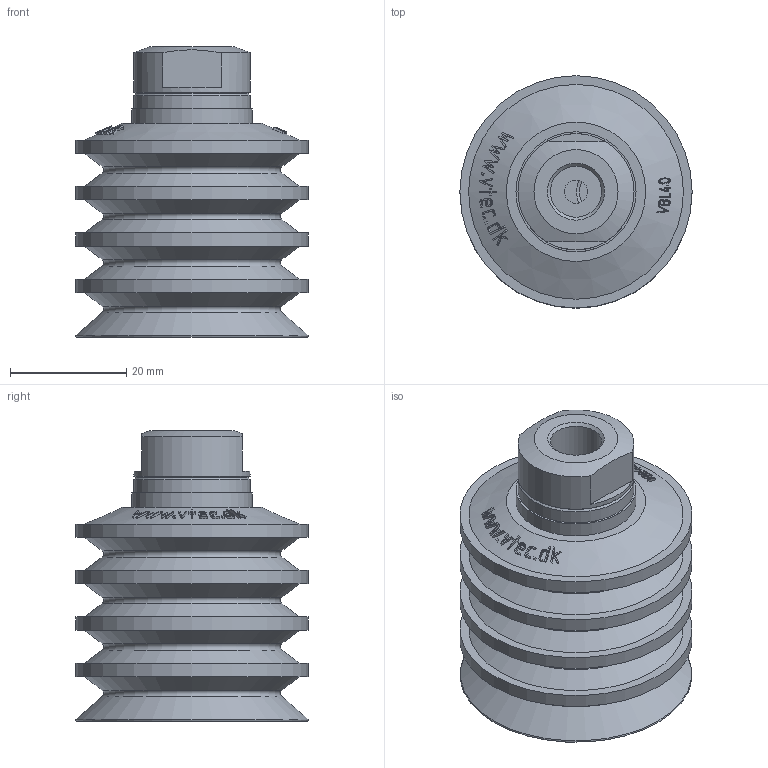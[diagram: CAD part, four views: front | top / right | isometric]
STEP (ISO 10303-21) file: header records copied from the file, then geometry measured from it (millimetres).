
FILE_DESCRIPTION( ( 'STEP AP203' ), '1' );
FILE_NAME( 'C:/撲啗紫賊-02/3D-蘋驍煎斜/Vacuum Pad/VBL series/VBL40-18F.stp', '2006-04-24T11:51:05', ( ' ' ), ( ' ' ), 'XStep 1.0', ' ', ' ' );
FILE_SCHEMA( ( 'CONFIG_CONTROL_DESIGN) ( )' ) );
Length unit declared in the file: metre
Products named in the file (3): Assem1; 1; 2
Bounding box: 40 x 40 x 50 mm (x, y, z)
Volume: 20929.7 mm3; surface area: 33485.2 mm2
Topology: 4 solids, 4 shells, 468 faces, 1098 edges, 716 vertices
Faces by surface type: bspline 276, cone 94, plane 54, cylinder 34, torus 10
Full cylindrical faces by diameter (mm): 4 x2, 6.5 x2, 7 x2, 7.6 x4, 7.9 x2, 8.8 x2, 9 x2, 10 x2, 11 x2, 20 x4, 20.679 x2, 40 x8
Entity records: 11019 total; most frequent: CARTESIAN_POINT 6738, ORIENTED_EDGE 988, EDGE_CURVE 494, DIRECTION 431, VERTEX_POINT 354, B_SPLINE_CURVE_WITH_KNOTS 335, EDGE_LOOP 328, FACE_OUTER_BOUND 258
